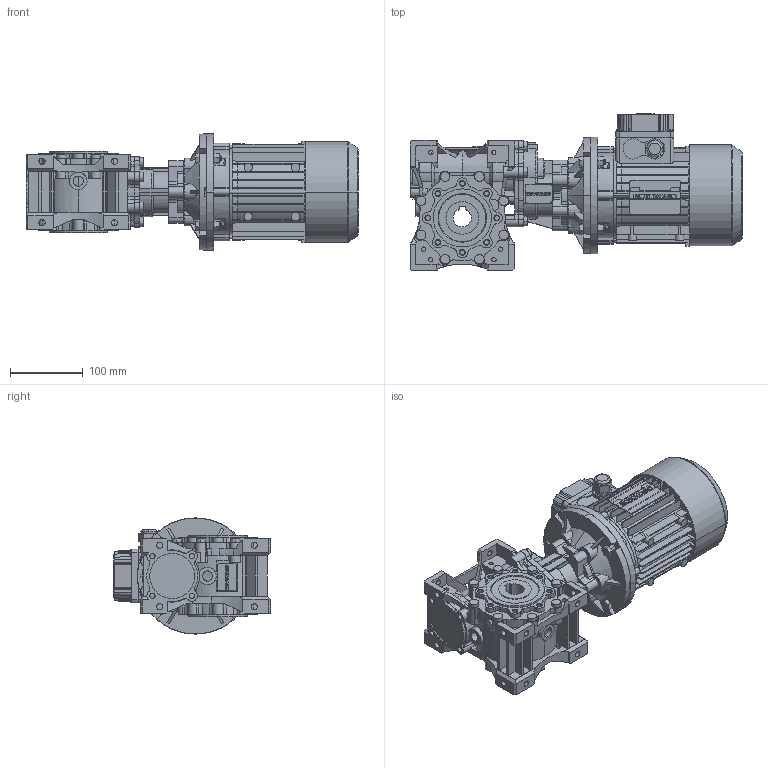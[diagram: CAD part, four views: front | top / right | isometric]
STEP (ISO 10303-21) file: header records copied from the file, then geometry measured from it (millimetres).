
FILE_DESCRIPTION( ( '' ), '1' );
FILE_NAME( '//expscmdclustefs.cadenas.external/client_exchange/iodir/jobs/output/wkb51808244_no0/STEP/NMRVP_HW_030_063_22_08__2_94x7_5__160x14_25_NO_NO_____NO_______NO_T_071_1_2_03.stp', '2012-11-30T06:26:52', ( '' ), ( '' ), ' ', ' ', ' ' );
FILE_SCHEMA( ( 'CONFIG_CONTROL_DESIGN' ) );
Length unit declared in the file: millimetre
Products named in the file (13): 1; 2; 3; 4; 5; 6; 7; 8; 9; 10; 11; 12; 13
Bounding box: 457 x 215.5 x 160 mm (x, y, z)
Volume: 5386620.9 mm3; surface area: 681917.5 mm2
Topology: 13 solids, 17 shells, 3867 faces, 10690 edges, 7070 vertices
Faces by surface type: plane 2018, cylinder 1637, cone 192, torus 16, sphere 4
Entity records: 127982 total; most frequent: CARTESIAN_POINT 25936, DIRECTION 21788, ORIENTED_EDGE 21376, EDGE_CURVE 10688, AXIS2_PLACEMENT_3D 7721, VERTEX_POINT 7070, LINE 6346, VECTOR 6346
